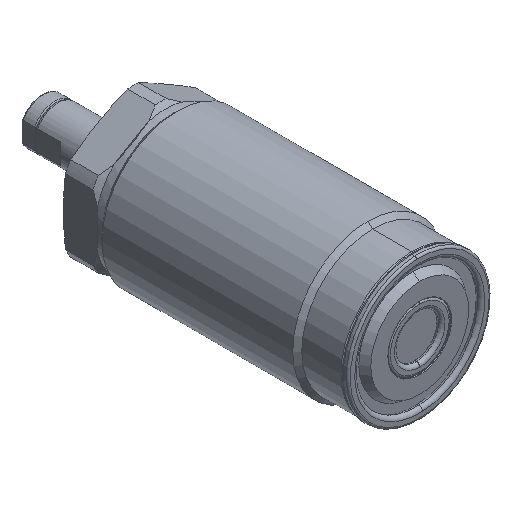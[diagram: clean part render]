
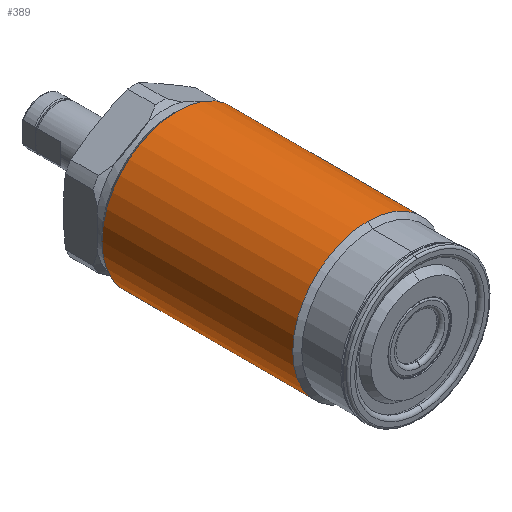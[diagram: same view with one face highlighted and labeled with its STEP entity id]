
A CAD part, isometric view. The second image highlights one B-rep face of the part: STEP entity #389.
In plain terms, the highlighted cylindrical face has radius 15 mm (diameter 30 mm), a full revolution.
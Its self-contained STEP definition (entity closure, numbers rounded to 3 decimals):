
#202=FACE_BOUND('',#672,.T.);
#203=FACE_BOUND('',#673,.T.);
#389=ADVANCED_FACE('',(#202,#203),#463,.T.);
#463=CYLINDRICAL_SURFACE('',#2212,15.);
#672=EDGE_LOOP('',(#1210));
#673=EDGE_LOOP('',(#1211,#1212,#1213,#1214,#1215,#1216));
#778=LINE('',#3625,#850);
#779=LINE('',#3630,#851);
#850=VECTOR('',#2749,1.);
#851=VECTOR('',#2752,1.);
#1210=ORIENTED_EDGE('',*,*,#1769,.T.);
#1211=ORIENTED_EDGE('',*,*,#1770,.T.);
#1212=ORIENTED_EDGE('',*,*,#1770,.F.);
#1213=ORIENTED_EDGE('',*,*,#1771,.T.);
#1214=ORIENTED_EDGE('',*,*,#1772,.T.);
#1215=ORIENTED_EDGE('',*,*,#1772,.F.);
#1216=ORIENTED_EDGE('',*,*,#1773,.T.);
#1539=VERTEX_POINT('',#3624);
#1540=VERTEX_POINT('',#3626);
#1541=VERTEX_POINT('',#3627);
#1542=VERTEX_POINT('',#3629);
#1543=VERTEX_POINT('',#3631);
#1769=EDGE_CURVE('',#1539,#1539,#1968,.T.);
#1770=EDGE_CURVE('',#1540,#1541,#778,.T.);
#1771=EDGE_CURVE('',#1540,#1542,#1969,.T.);
#1772=EDGE_CURVE('',#1542,#1543,#779,.T.);
#1773=EDGE_CURVE('',#1542,#1540,#1970,.T.);
#1968=CIRCLE('',#2209,15.);
#1969=CIRCLE('',#2210,15.);
#1970=CIRCLE('',#2211,15.);
#2209=AXIS2_PLACEMENT_3D('',#3623,#2747,#2748);
#2210=AXIS2_PLACEMENT_3D('',#3628,#2750,#2751);
#2211=AXIS2_PLACEMENT_3D('',#3632,#2753,#2754);
#2212=AXIS2_PLACEMENT_3D('',#3633,#2755,#2756);
#2747=DIRECTION('',(0.,-1.,0.));
#2748=DIRECTION('',(0.,0.,1.));
#2749=DIRECTION('',(0.,1.,0.));
#2750=DIRECTION('',(0.,1.,0.));
#2751=DIRECTION('',(0.,0.,1.));
#2752=DIRECTION('',(0.,1.,0.));
#2753=DIRECTION('',(0.,1.,0.));
#2754=DIRECTION('',(0.,0.,1.));
#2755=DIRECTION('',(0.,1.,0.));
#2756=DIRECTION('',(0.,0.,-1.));
#3623=CARTESIAN_POINT('',(0.,48.3,0.));
#3624=CARTESIAN_POINT('',(0.,48.3,15.));
#3625=CARTESIAN_POINT('',(0.,59.7,15.));
#3626=CARTESIAN_POINT('',(0.,10.3,15.));
#3627=CARTESIAN_POINT('',(0.,46.292,15.));
#3628=CARTESIAN_POINT('',(0.,10.3,0.));
#3629=CARTESIAN_POINT('',(0.,10.3,-15.));
#3630=CARTESIAN_POINT('',(0.,59.7,-15.));
#3631=CARTESIAN_POINT('',(0.,46.292,-15.));
#3632=CARTESIAN_POINT('',(0.,10.3,0.));
#3633=CARTESIAN_POINT('',(0.,59.7,0.));
